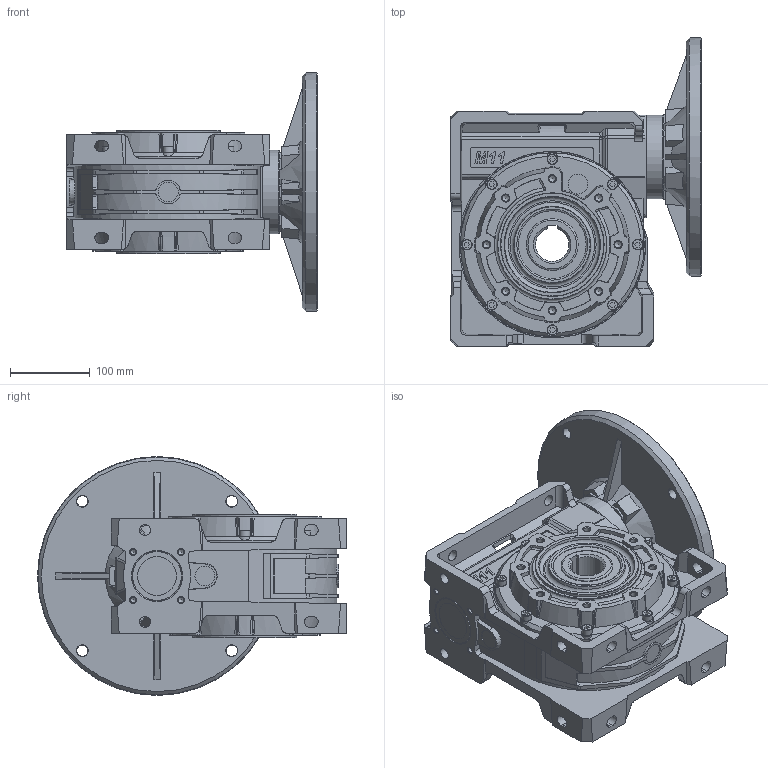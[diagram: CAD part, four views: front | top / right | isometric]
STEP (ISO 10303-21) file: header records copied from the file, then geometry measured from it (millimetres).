
FILE_DESCRIPTION( ( 'Unknown' ), '1' );
FILE_NAME( 'E:/services/configuratordownloads/customers/HYDROMEC/VQM/download/3DE49317F71643FAA8DA9D52A68679/STEP/3DE49317F71643FAA8DA9D52A68679.3d.stp', 'Unknown', ( 'Unknown' ), ( 'Unknown' ), 'PSStep 10.1', 'Unknown', ' ' );
FILE_SCHEMA( ( 'AUTOMOTIVE_DESIGN { 1 0 10303 214 1 1 1 1 }' ) );
Length unit declared in the file: millimetre
Products named in the file (1): M118800
Bounding box: 314.5 x 387.34 x 299.69 mm (x, y, z)
Volume: 8333069.4 mm3; surface area: 682854 mm2
Topology: 1 solids, 22 shells, 1580 faces, 4185 edges, 2746 vertices
Faces by surface type: plane 833, cylinder 256, cone 248, bspline 170, torus 47, extrusion 22, sphere 4
Full cylindrical faces by diameter (mm): 4.917 x6, 6.647 x8, 8 x14, 8.376 x32, 9 x14, 9.5 x6, 13 x14, 14 x10, 25 x4, 49 x1, 55 x1, 61 x1, 62 x1, 63 x1, 65 x3, 75 x2, 85 x2, 105 x1, 130 x2, 230 x1
Entity records: 75125 total; most frequent: CARTESIAN_POINT 25984, ORIENTED_EDGE 7568, DIRECTION 7058, EDGE_CURVE 3784, VERTEX_POINT 2636, AXIS2_PLACEMENT_3D 2569, EDGE_LOOP 2014, VECTOR 1920
